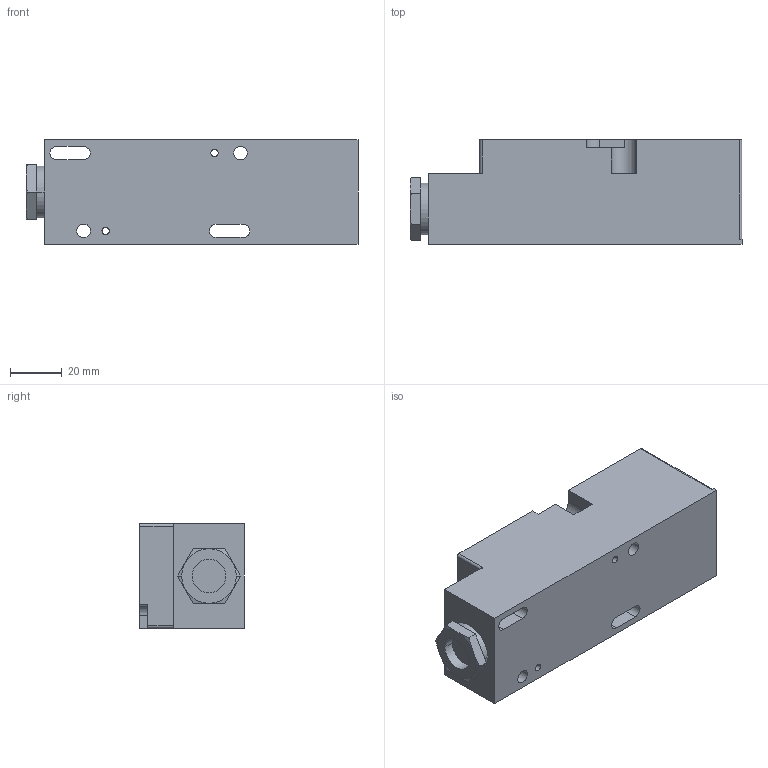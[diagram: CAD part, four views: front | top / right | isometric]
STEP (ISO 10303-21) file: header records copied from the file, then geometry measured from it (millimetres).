
FILE_DESCRIPTION( ( '' ), '1' );
FILE_NAME( '//partserver001.servicenet/client_exchange/iodir/jobs/output/wkb10605695_no0/STEP/im5046_2_03.stp', '2008-05-15T14:16:31', ( '' ), ( '' ), ' ', ' ', ' ' );
FILE_SCHEMA( ( 'CONFIG_CONTROL_DESIGN' ) );
Length unit declared in the file: millimetre
Products named in the file (1): 1
Bounding box: 128 x 40.4 x 40.3 mm (x, y, z)
Volume: 177976.7 mm3; surface area: 26810.7 mm2
Topology: 1 solids, 1 shells, 88 faces, 229 edges, 150 vertices
Faces by surface type: plane 45, cylinder 35, cone 8
Entity records: 2764 total; most frequent: CARTESIAN_POINT 492, DIRECTION 474, ORIENTED_EDGE 458, EDGE_CURVE 229, AXIS2_PLACEMENT_3D 168, VERTEX_POINT 150, LINE 138, VECTOR 138
